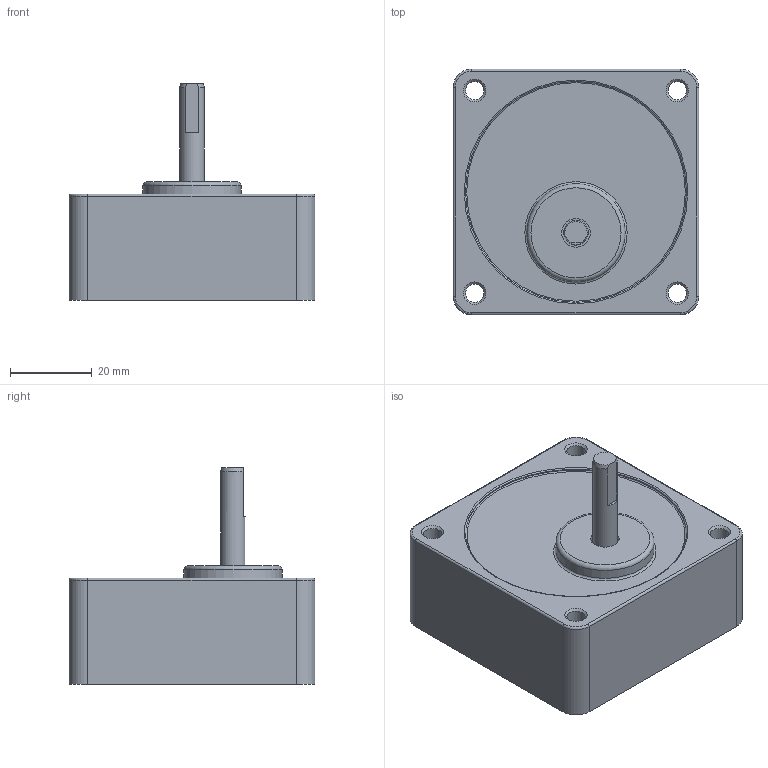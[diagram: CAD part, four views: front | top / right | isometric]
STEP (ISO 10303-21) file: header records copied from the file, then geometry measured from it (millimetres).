
FILE_DESCRIPTION((''),'2;1');
FILE_NAME('D:\STP파일\GEAR HEAD\3W\S6DT3~18.stp','2013-05-20T19:02:41',('leebh'),(''),'Autodesk Inventor 2011','Autodesk Inventor 2011','');
FILE_SCHEMA(('AUTOMOTIVE_DESIGN { 1 0 10303 214 1 1 1 1 }'));
Length unit declared in the file: millimetre
Products named in the file (1): S9I90G-T1
Bounding box: 60 x 60 x 53 mm (x, y, z)
Volume: 80842.1 mm3; surface area: 16455.2 mm2
Topology: 1 solids, 1 shells, 45 faces, 95 edges, 58 vertices
Faces by surface type: cylinder 18, plane 14, torus 8, cone 5
Full cylindrical faces by diameter (mm): 4.5 x4, 6 x2, 7 x1, 24 x1, 53.997 x1, 54 x1
Entity records: 1152 total; most frequent: DIRECTION 216, CARTESIAN_POINT 183, ORIENTED_EDGE 152, AXIS2_PLACEMENT_3D 96, EDGE_LOOP 77, EDGE_CURVE 76, VERTEX_POINT 57, CIRCLE 50
